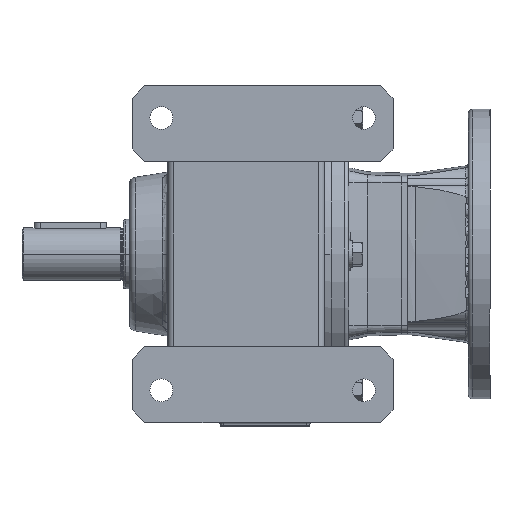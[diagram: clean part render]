
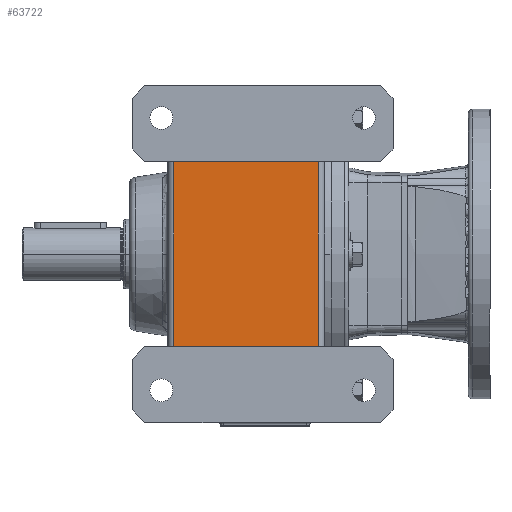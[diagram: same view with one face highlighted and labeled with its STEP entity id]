
A CAD part, front view. The second image highlights one B-rep face of the part: STEP entity #63722.
In plain terms, the highlighted planar face has unit normal (0, -1, 0).
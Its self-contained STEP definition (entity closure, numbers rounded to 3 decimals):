
#2487 = VECTOR ( 'NONE', #38373, 1000. ) ;
#2599 = VECTOR ( 'NONE', #38379, 1000. ) ;
#2670 = VECTOR ( 'NONE', #38370, 1000. ) ;
#2671 = VECTOR ( 'NONE', #38376, 1000. ) ;
#3252 = FACE_OUTER_BOUND ( 'NONE', #17195, .T. ) ;
#3259 = AXIS2_PLACEMENT_3D ( 'NONE', #4967, #4968, #4969 ) ;
#4966 = PLANE ( 'NONE',  #3259 ) ;
#4967 = CARTESIAN_POINT ( 'NONE',  ( 160.324, -99., 133. ) ) ;
#4968 = DIRECTION ( 'NONE',  ( 0., 1., 0. ) ) ;
#4969 = DIRECTION ( 'NONE',  ( 0., 0., 1. ) ) ;
#17195 = EDGE_LOOP ( 'NONE', ( #62610, #62612, #62611, #62613 ) ) ;
#19415 = VERTEX_POINT ( 'NONE', #49429 ) ;
#19416 = VERTEX_POINT ( 'NONE', #49431 ) ;
#19418 = VERTEX_POINT ( 'NONE', #49435 ) ;
#19422 = VERTEX_POINT ( 'NONE', #49442 ) ;
#32956 = EDGE_CURVE ( 'NONE', #19415, #19416, #38368, .T. ) ;
#32957 = EDGE_CURVE ( 'NONE', #19415, #19422, #38371, .T. ) ;
#32958 = EDGE_CURVE ( 'NONE', #19418, #19416, #38374, .T. ) ;
#32959 = EDGE_CURVE ( 'NONE', #19418, #19422, #38377, .T. ) ;
#38368 = LINE ( 'NONE', #38369, #2670 ) ;
#38369 = CARTESIAN_POINT ( 'NONE',  ( 5., -99., -73. ) ) ;
#38370 = DIRECTION ( 'NONE',  ( 0., 0., -1. ) ) ;
#38371 = LINE ( 'NONE', #38372, #2487 ) ;
#38372 = CARTESIAN_POINT ( 'NONE',  ( 160.324, -99., 73. ) ) ;
#38373 = DIRECTION ( 'NONE',  ( 1., 0., 0. ) ) ;
#38374 = LINE ( 'NONE', #38375, #2671 ) ;
#38375 = CARTESIAN_POINT ( 'NONE',  ( 160.324, -99., -73. ) ) ;
#38376 = DIRECTION ( 'NONE',  ( -1., 0., 0. ) ) ;
#38377 = LINE ( 'NONE', #38378, #2599 ) ;
#38378 = CARTESIAN_POINT ( 'NONE',  ( 119., -99., 73. ) ) ;
#38379 = DIRECTION ( 'NONE',  ( 0., 0., 1. ) ) ;
#49429 = CARTESIAN_POINT ( 'NONE',  ( 5., -99., 73. ) ) ;
#49431 = CARTESIAN_POINT ( 'NONE',  ( 5., -99., -73. ) ) ;
#49435 = CARTESIAN_POINT ( 'NONE',  ( 119., -99., -73. ) ) ;
#49442 = CARTESIAN_POINT ( 'NONE',  ( 119., -99., 73. ) ) ;
#62610 = ORIENTED_EDGE ( 'NONE', *, *, #32957, .F. ) ;
#62611 = ORIENTED_EDGE ( 'NONE', *, *, #32958, .F. ) ;
#62612 = ORIENTED_EDGE ( 'NONE', *, *, #32956, .T. ) ;
#62613 = ORIENTED_EDGE ( 'NONE', *, *, #32959, .T. ) ;
#63722 = ADVANCED_FACE ( 'NONE', ( #3252 ), #4966, .F. ) ;
